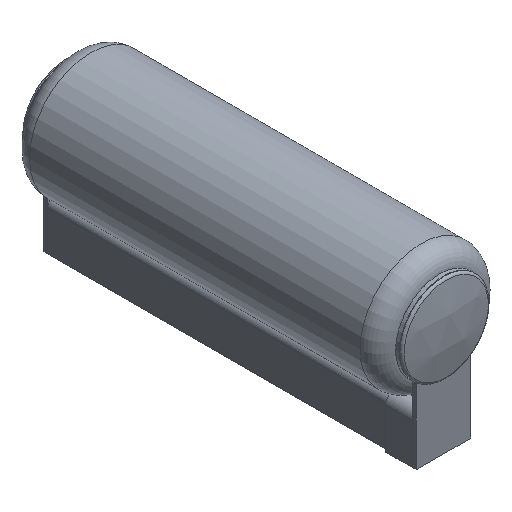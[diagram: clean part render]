
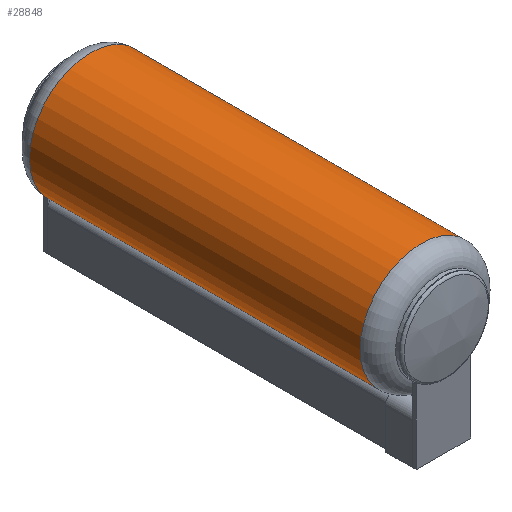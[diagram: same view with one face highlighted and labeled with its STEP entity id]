
A CAD part, isometric view. The second image highlights one B-rep face of the part: STEP entity #28848.
In plain terms, the highlighted cylindrical face has radius 50 mm (diameter 100 mm), a full revolution.
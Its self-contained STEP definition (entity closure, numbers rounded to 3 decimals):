
#4569=FACE_OUTER_BOUND('',#6243,.T.);
#6243=EDGE_LOOP('',(#26725,#26726,#26727,#26728,#26729,#26730));
#8365=LINE('',#53929,#10484);
#10484=VECTOR('',#39768,50.);
#11644=CIRCLE('',#32222,50.);
#11645=CIRCLE('',#32223,50.);
#11647=CIRCLE('',#32226,50.);
#11648=CIRCLE('',#32227,50.);
#14367=VERTEX_POINT('',#53920);
#14368=VERTEX_POINT('',#53921);
#14369=VERTEX_POINT('',#53926);
#14370=VERTEX_POINT('',#53927);
#18486=EDGE_CURVE('',#14367,#14368,#11644,.T.);
#18487=EDGE_CURVE('',#14368,#14367,#11645,.T.);
#18489=EDGE_CURVE('',#14369,#14370,#11647,.T.);
#18490=EDGE_CURVE('',#14369,#14367,#8365,.T.);
#18491=EDGE_CURVE('',#14370,#14369,#11648,.T.);
#26725=ORIENTED_EDGE('',*,*,#18489,.F.);
#26726=ORIENTED_EDGE('',*,*,#18490,.T.);
#26727=ORIENTED_EDGE('',*,*,#18486,.T.);
#26728=ORIENTED_EDGE('',*,*,#18487,.T.);
#26729=ORIENTED_EDGE('',*,*,#18490,.F.);
#26730=ORIENTED_EDGE('',*,*,#18491,.F.);
#27335=CYLINDRICAL_SURFACE('',#32225,50.);
#28848=ADVANCED_FACE('',(#4569),#27335,.T.);
#32222=AXIS2_PLACEMENT_3D('',#53922,#39758,#39759);
#32223=AXIS2_PLACEMENT_3D('',#53923,#39760,#39761);
#32225=AXIS2_PLACEMENT_3D('',#53925,#39764,#39765);
#32226=AXIS2_PLACEMENT_3D('',#53928,#39766,#39767);
#32227=AXIS2_PLACEMENT_3D('',#53930,#39769,#39770);
#39758=DIRECTION('center_axis',(1.,0.,0.));
#39759=DIRECTION('ref_axis',(0.,0.,-1.));
#39760=DIRECTION('center_axis',(1.,0.,0.));
#39761=DIRECTION('ref_axis',(0.,0.,-1.));
#39764=DIRECTION('center_axis',(1.,0.,0.));
#39765=DIRECTION('ref_axis',(0.,1.,0.));
#39766=DIRECTION('center_axis',(1.,0.,0.));
#39767=DIRECTION('ref_axis',(0.,0.,-1.));
#39768=DIRECTION('',(-1.,0.,0.));
#39769=DIRECTION('center_axis',(1.,0.,0.));
#39770=DIRECTION('ref_axis',(0.,0.,-1.));
#53920=CARTESIAN_POINT('',(15.,-50.,0.));
#53921=CARTESIAN_POINT('',(15.,0.,50.));
#53922=CARTESIAN_POINT('Origin',(15.,0.,0.));
#53923=CARTESIAN_POINT('Origin',(15.,0.,0.));
#53925=CARTESIAN_POINT('Origin',(150.,0.,0.));
#53926=CARTESIAN_POINT('',(285.,-50.,0.));
#53927=CARTESIAN_POINT('',(285.,0.,50.));
#53928=CARTESIAN_POINT('Origin',(285.,0.,0.));
#53929=CARTESIAN_POINT('',(150.,-50.,0.));
#53930=CARTESIAN_POINT('Origin',(285.,0.,0.));
